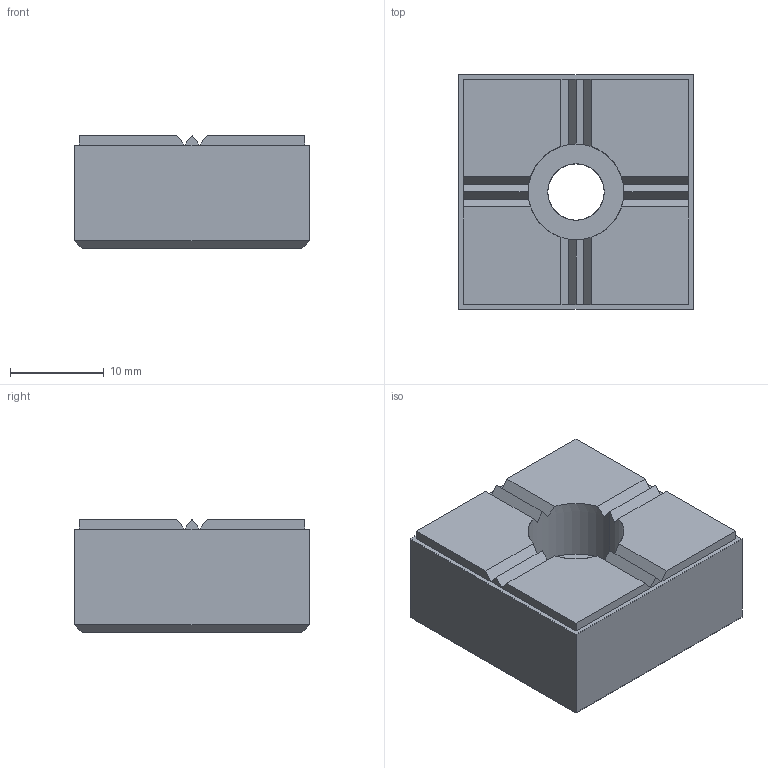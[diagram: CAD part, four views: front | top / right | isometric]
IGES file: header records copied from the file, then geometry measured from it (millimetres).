
Start section: SolidWorks IGES FILE using analytic representation for surfaces
Global section: file name: C:\WIX2\Positioning\3549\3549W006.igs; native system: SolidWorks 2003 by SolidWorks Corporation; preprocessor: Version 5.3; author: Joan; date: 030722.164429; units: millimetre
Bounding box: 25 x 25 x 12 mm (x, y, z)
Surface area: 2695.6 mm2 (no closed solid volume)
Topology: 0 solids, 0 shells, 47 faces, 322 edges, 322 vertices
Faces by surface type: bspline 43, revolution 4
